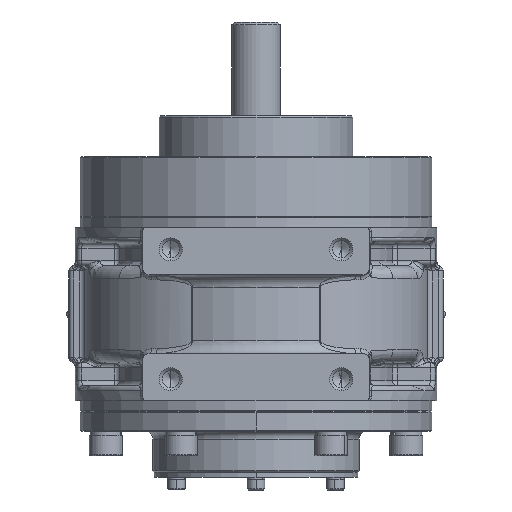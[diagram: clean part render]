
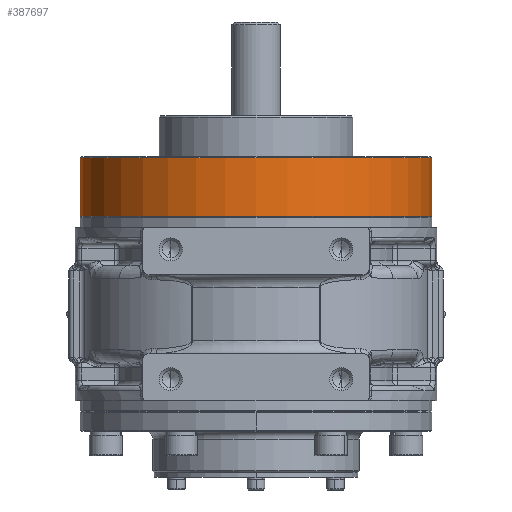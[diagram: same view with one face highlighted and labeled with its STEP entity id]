
A CAD part, front view. The second image highlights one B-rep face of the part: STEP entity #387697.
In plain terms, the highlighted cylindrical face has radius 69 mm (diameter 138 mm), a partial arc.
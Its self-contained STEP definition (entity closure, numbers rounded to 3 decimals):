
#16829 = VERTEX_POINT ( 'NONE', #338683 ) ;
#21462 = EDGE_CURVE ( 'NONE', #251180, #16829, #331171, .T. ) ;
#25279 = CYLINDRICAL_SURFACE ( 'NONE', #131635, 69. ) ;
#28099 = DIRECTION ( 'NONE',  ( 0., 0., -1. ) ) ;
#39510 = CIRCLE ( 'NONE', #123795, 69. ) ;
#95474 = CIRCLE ( 'NONE', #400177, 69. ) ;
#110455 = CARTESIAN_POINT ( 'NONE',  ( -69., 0., 38.55 ) ) ;
#123795 = AXIS2_PLACEMENT_3D ( 'NONE', #311910, #28099, #183217 ) ;
#130045 = VECTOR ( 'NONE', #340102, 1000. ) ;
#131635 = AXIS2_PLACEMENT_3D ( 'NONE', #394507, #206936, #176785 ) ;
#150327 = ORIENTED_EDGE ( 'NONE', *, *, #21462, .T. ) ;
#168534 = VERTEX_POINT ( 'NONE', #110455 ) ;
#176785 = DIRECTION ( 'NONE',  ( -1., 0., 0. ) ) ;
#177357 = VERTEX_POINT ( 'NONE', #242953 ) ;
#183217 = DIRECTION ( 'NONE',  ( -1., 0., 0. ) ) ;
#187673 = EDGE_CURVE ( 'NONE', #168534, #251180, #95474, .T. ) ;
#195541 = DIRECTION ( 'NONE',  ( 1., 0., 0. ) ) ;
#206936 = DIRECTION ( 'NONE',  ( 0., 0., 1. ) ) ;
#218361 = VECTOR ( 'NONE', #301957, 1000. ) ;
#242953 = CARTESIAN_POINT ( 'NONE',  ( -69., 0., 61.45 ) ) ;
#247794 = ORIENTED_EDGE ( 'NONE', *, *, #348230, .T. ) ;
#251180 = VERTEX_POINT ( 'NONE', #285820 ) ;
#265665 = FACE_OUTER_BOUND ( 'NONE', #309153, .T. ) ;
#282585 = ORIENTED_EDGE ( 'NONE', *, *, #286381, .F. ) ;
#285820 = CARTESIAN_POINT ( 'NONE',  ( 69., 0., 38.55 ) ) ;
#286381 = EDGE_CURVE ( 'NONE', #168534, #177357, #370159, .T. ) ;
#292743 = CARTESIAN_POINT ( 'NONE',  ( 0., 0., 38.55 ) ) ;
#301957 = DIRECTION ( 'NONE',  ( 0., 0., 1. ) ) ;
#309153 = EDGE_LOOP ( 'NONE', ( #356590, #150327, #247794, #282585 ) ) ;
#311910 = CARTESIAN_POINT ( 'NONE',  ( 0., 0., 61.45 ) ) ;
#331171 = LINE ( 'NONE', #362103, #218361 ) ;
#338683 = CARTESIAN_POINT ( 'NONE',  ( 69., 0., 61.45 ) ) ;
#340102 = DIRECTION ( 'NONE',  ( 0., 0., 1. ) ) ;
#348230 = EDGE_CURVE ( 'NONE', #16829, #177357, #39510, .T. ) ;
#356590 = ORIENTED_EDGE ( 'NONE', *, *, #187673, .T. ) ;
#362103 = CARTESIAN_POINT ( 'NONE',  ( 69., 0., 31.95 ) ) ;
#370159 = LINE ( 'NONE', #403149, #130045 ) ;
#387159 = DIRECTION ( 'NONE',  ( 0., 0., 1. ) ) ;
#387697 = ADVANCED_FACE ( 'NONE', ( #265665 ), #25279, .T. ) ;
#394507 = CARTESIAN_POINT ( 'NONE',  ( 0., 0., 31.95 ) ) ;
#400177 = AXIS2_PLACEMENT_3D ( 'NONE', #292743, #387159, #195541 ) ;
#403149 = CARTESIAN_POINT ( 'NONE',  ( -69., 0., 31.95 ) ) ;
